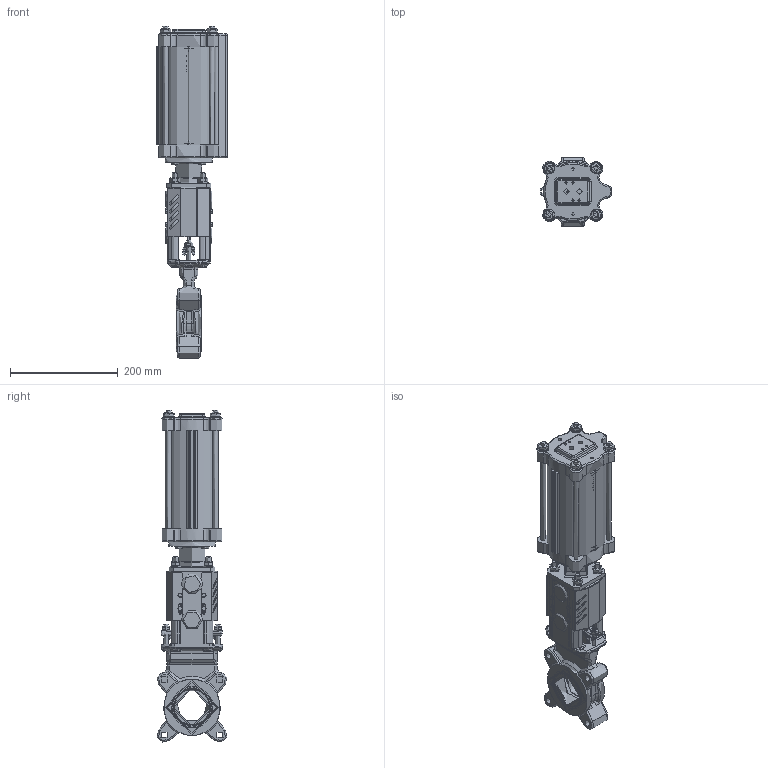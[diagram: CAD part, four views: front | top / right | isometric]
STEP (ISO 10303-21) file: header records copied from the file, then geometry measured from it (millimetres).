
FILE_DESCRIPTION(/* description */ (''),/* implementation_level */ '2;1');
FILE_NAME(/* name */ 'G:\KONSTRUK\3-D Block för kund\WB VALVE\SC-Cylinder\WB11-DN65-PN10-FRSC100-115.stp',/* time_stamp */ '2018-01-10T08:48:53+01:00',/* author */ ('emimus'),/* organization */ (''),/* preprocessor_version */ 'ST-DEVELOPER v16.5',/* originating_system */ 'Autodesk Inventor 2017',/* authorisation */ '');
FILE_SCHEMA (('CONFIG_CONTROL_DESIGN'));
Products named in the file (1): WB11 DN65 PN10-FRSC100-115_Shrinkwrap_1
Bounding box: 132 x 129.29 x 616.65 mm (x, y, z)
Topology: 8 solids, 118 shells, 2179 faces, 5058 edges, 3024 vertices
Faces by surface type: plane 726, cylinder 619, bspline 289, torus 238, cone 221, sphere 86
Full cylindrical faces by diameter (mm): 3 x5, 4 x5, 4.134 x4, 4.2 x16, 4.5 x4, 4.917 x4, 6 x49, 8 x13, 8.4 x2, 8.5 x4, 9 x2, 10 x22, 10.106 x1, 10.5 x8, 11 x8, 11.445 x2, 13 x4, 14 x7, 15 x3, 16 x2, 18 x4, 20 x9, 20.15 x2, 22 x1, 24 x5, 26 x1, 26.4 x1, 28 x4, 40 x1, 48 x1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
Entity records: 90790 total; most frequent: CARTESIAN_POINT 45361, DIRECTION 9327, ORIENTED_EDGE 9218, EDGE_CURVE 4602, AXIS2_PLACEMENT_3D 3901, VERTEX_POINT 2875, EDGE_LOOP 2675, ADVANCED_FACE 2176
